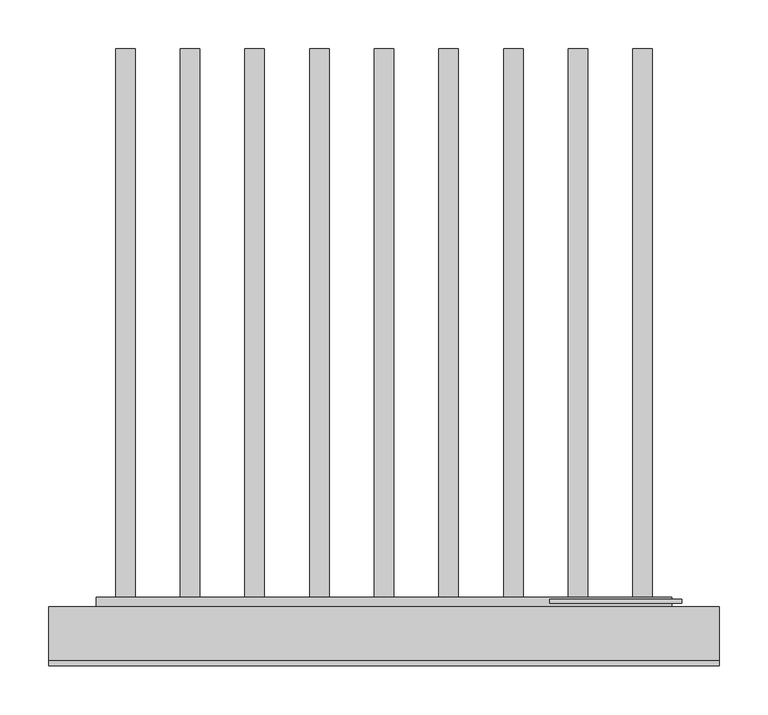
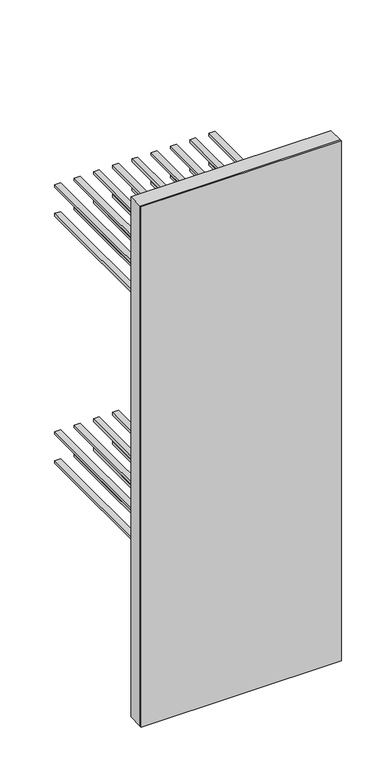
"""IFC4 building model written with IfcOpenShell, lengths in millimetres: proxy geometry, 10423090_OER_KWT6834SGS : 36683400_OER_10423090_KWT6834SGS."""

from ifc_helpers import new_model, si_unit, frame, origin, place, context, project, spatial, polyline, outline, extrude, source, transform, mapped, element, save


def specialty_equipment_9db27f2a(model_context):
    return source(origin(), model_context, "Body", "SweptSolid", [
        extrude(outline(polyline([(10.0, 67.0438353), (-10.0, 67.0438353), (-10.0, 632.0), (10.0, 632.0), (10.0, 67.0438353)])), frame((0.0, 0.0, 1583.0), z_axis=(0.0, 0.0, 1.0), x_axis=(1.0, 0.0, 0.0)), (0.0, 0.0, 1.0), 10.0),
        extrude(outline(polyline([(-56.25, 67.0438353), (-76.25, 67.0438353), (-76.25, 632.0), (-56.25, 632.0), (-56.25, 67.0438353)])), frame((0.0, 0.0, 1583.0), z_axis=(0.0, 0.0, 1.0), x_axis=(1.0, 0.0, 0.0)), (0.0, 0.0, 1.0), 10.0),
        extrude(outline(polyline([(-122.5, 67.0438353), (-142.5, 67.0438353), (-142.5, 632.0), (-122.5, 632.0), (-122.5, 67.0438353)])), frame((0.0, 0.0, 1583.0), z_axis=(0.0, 0.0, 1.0), x_axis=(1.0, 0.0, 0.0)), (0.0, 0.0, 1.0), 10.0),
        extrude(outline(polyline([(-188.75, 67.0438353), (-208.75, 67.0438353), (-208.75, 632.0), (-188.75, 632.0), (-188.75, 67.0438353)])), frame((0.0, 0.0, 1583.0), z_axis=(0.0, 0.0, 1.0), x_axis=(1.0, 0.0, 0.0)), (0.0, 0.0, 1.0), 10.0),
        extrude(outline(polyline([(-255.0, 67.0438353), (-275.0, 67.0438353), (-275.0, 632.0), (-255.0, 632.0), (-255.0, 67.0438353)])), frame((0.0, 0.0, 1583.0), z_axis=(0.0, 0.0, 1.0), x_axis=(1.0, 0.0, 0.0)), (0.0, 0.0, 1.0), 10.0),
        extrude(outline(polyline([(76.25, 67.0438353), (56.25, 67.0438353), (56.25, 632.0), (76.25, 632.0), (76.25, 67.0438353)])), frame((0.0, 0.0, 1583.0), z_axis=(0.0, 0.0, 1.0), x_axis=(1.0, 0.0, 0.0)), (0.0, 0.0, 1.0), 10.0),
        extrude(outline(polyline([(142.5, 67.0438353), (122.5, 67.0438353), (122.5, 632.0), (142.5, 632.0), (142.5, 67.0438353)])), frame((0.0, 0.0, 1583.0), z_axis=(0.0, 0.0, 1.0), x_axis=(1.0, 0.0, 0.0)), (0.0, 0.0, 1.0), 10.0),
        extrude(outline(polyline([(208.75, 67.0438353), (188.75, 67.0438353), (188.75, 632.0), (208.75, 632.0), (208.75, 67.0438353)])), frame((0.0, 0.0, 1583.0), z_axis=(0.0, 0.0, 1.0), x_axis=(1.0, 0.0, 0.0)), (0.0, 0.0, 1.0), 10.0),
        extrude(outline(polyline([(275.0, 67.0438353), (255.0, 67.0438353), (255.0, 632.0), (275.0, 632.0), (275.0, 67.0438353)])), frame((0.0, 0.0, 1583.0), z_axis=(0.0, 0.0, 1.0), x_axis=(1.0, 0.0, 0.0)), (0.0, 0.0, 1.0), 10.0),
        extrude(outline(polyline([(10.0, 67.0438353), (-10.0, 67.0438353), (-10.0, 632.0), (10.0, 632.0), (10.0, 67.0438353)])), frame((0.0, 0.0, 1478.0), z_axis=(0.0, 0.0, 1.0), x_axis=(1.0, 0.0, 0.0)), (0.0, 0.0, 1.0), 10.0),
        extrude(outline(polyline([(-56.25, 67.0438353), (-76.25, 67.0438353), (-76.25, 632.0), (-56.25, 632.0), (-56.25, 67.0438353)])), frame((0.0, 0.0, 1478.0), z_axis=(0.0, 0.0, 1.0), x_axis=(1.0, 0.0, 0.0)), (0.0, 0.0, 1.0), 10.0),
        extrude(outline(polyline([(-122.5, 67.0438353), (-142.5, 67.0438353), (-142.5, 632.0), (-122.5, 632.0), (-122.5, 67.0438353)])), frame((0.0, 0.0, 1478.0), z_axis=(0.0, 0.0, 1.0), x_axis=(1.0, 0.0, 0.0)), (0.0, 0.0, 1.0), 10.0),
        extrude(outline(polyline([(-188.75, 67.0438353), (-208.75, 67.0438353), (-208.75, 632.0), (-188.75, 632.0), (-188.75, 67.0438353)])), frame((0.0, 0.0, 1478.0), z_axis=(0.0, 0.0, 1.0), x_axis=(1.0, 0.0, 0.0)), (0.0, 0.0, 1.0), 10.0),
        extrude(outline(polyline([(-255.0, 67.0438353), (-275.0, 67.0438353), (-275.0, 632.0), (-255.0, 632.0), (-255.0, 67.0438353)])), frame((0.0, 0.0, 1478.0), z_axis=(0.0, 0.0, 1.0), x_axis=(1.0, 0.0, 0.0)), (0.0, 0.0, 1.0), 10.0),
        extrude(outline(polyline([(76.25, 67.0438353), (56.25, 67.0438353), (56.25, 632.0), (76.25, 632.0), (76.25, 67.0438353)])), frame((0.0, 0.0, 1478.0), z_axis=(0.0, 0.0, 1.0), x_axis=(1.0, 0.0, 0.0)), (0.0, 0.0, 1.0), 10.0),
        extrude(outline(polyline([(142.5, 67.0438353), (122.5, 67.0438353), (122.5, 632.0), (142.5, 632.0), (142.5, 67.0438353)])), frame((0.0, 0.0, 1478.0), z_axis=(0.0, 0.0, 1.0), x_axis=(1.0, 0.0, 0.0)), (0.0, 0.0, 1.0), 10.0),
        extrude(outline(polyline([(208.75, 67.0438353), (188.75, 67.0438353), (188.75, 632.0), (208.75, 632.0), (208.75, 67.0438353)])), frame((0.0, 0.0, 1478.0), z_axis=(0.0, 0.0, 1.0), x_axis=(1.0, 0.0, 0.0)), (0.0, 0.0, 1.0), 10.0),
        extrude(outline(polyline([(275.0, 67.0438353), (255.0, 67.0438353), (255.0, 632.0), (275.0, 632.0), (275.0, 67.0438353)])), frame((0.0, 0.0, 1478.0), z_axis=(0.0, 0.0, 1.0), x_axis=(1.0, 0.0, 0.0)), (0.0, 0.0, 1.0), 10.0),
        extrude(outline(polyline([(10.0, 67.0438353), (-10.0, 67.0438353), (-10.0, 632.0), (10.0, 632.0), (10.0, 67.0438353)])), frame((0.0, 0.0, 687.0), z_axis=(0.0, 0.0, 1.0), x_axis=(1.0, 0.0, 0.0)), (0.0, 0.0, 1.0), 10.0),
        extrude(outline(polyline([(-56.25, 67.0438353), (-76.25, 67.0438353), (-76.25, 632.0), (-56.25, 632.0), (-56.25, 67.0438353)])), frame((0.0, 0.0, 687.0), z_axis=(0.0, 0.0, 1.0), x_axis=(1.0, 0.0, 0.0)), (0.0, 0.0, 1.0), 10.0),
        extrude(outline(polyline([(-122.5, 67.0438353), (-142.5, 67.0438353), (-142.5, 632.0), (-122.5, 632.0), (-122.5, 67.0438353)])), frame((0.0, 0.0, 687.0), z_axis=(0.0, 0.0, 1.0), x_axis=(1.0, 0.0, 0.0)), (0.0, 0.0, 1.0), 10.0),
        extrude(outline(polyline([(-188.75, 67.0438353), (-208.75, 67.0438353), (-208.75, 632.0), (-188.75, 632.0), (-188.75, 67.0438353)])), frame((0.0, 0.0, 687.0), z_axis=(0.0, 0.0, 1.0), x_axis=(1.0, 0.0, 0.0)), (0.0, 0.0, 1.0), 10.0),
        extrude(outline(polyline([(-255.0, 67.0438353), (-275.0, 67.0438353), (-275.0, 632.0), (-255.0, 632.0), (-255.0, 67.0438353)])), frame((0.0, 0.0, 687.0), z_axis=(0.0, 0.0, 1.0), x_axis=(1.0, 0.0, 0.0)), (0.0, 0.0, 1.0), 10.0),
        extrude(outline(polyline([(76.25, 67.0438353), (56.25, 67.0438353), (56.25, 632.0), (76.25, 632.0), (76.25, 67.0438353)])), frame((0.0, 0.0, 687.0), z_axis=(0.0, 0.0, 1.0), x_axis=(1.0, 0.0, 0.0)), (0.0, 0.0, 1.0), 10.0),
        extrude(outline(polyline([(142.5, 67.0438353), (122.5, 67.0438353), (122.5, 632.0), (142.5, 632.0), (142.5, 67.0438353)])), frame((0.0, 0.0, 687.0), z_axis=(0.0, 0.0, 1.0), x_axis=(1.0, 0.0, 0.0)), (0.0, 0.0, 1.0), 10.0),
        extrude(outline(polyline([(208.75, 67.0438353), (188.75, 67.0438353), (188.75, 632.0), (208.75, 632.0), (208.75, 67.0438353)])), frame((0.0, 0.0, 687.0), z_axis=(0.0, 0.0, 1.0), x_axis=(1.0, 0.0, 0.0)), (0.0, 0.0, 1.0), 10.0),
        extrude(outline(polyline([(275.0, 67.0438353), (255.0, 67.0438353), (255.0, 632.0), (275.0, 632.0), (275.0, 67.0438353)])), frame((0.0, 0.0, 687.0), z_axis=(0.0, 0.0, 1.0), x_axis=(1.0, 0.0, 0.0)), (0.0, 0.0, 1.0), 10.0),
        extrude(outline(polyline([(10.0, 67.0438353), (-10.0, 67.0438353), (-10.0, 632.0), (10.0, 632.0), (10.0, 67.0438353)])), frame((0.0, 0.0, 582.0), z_axis=(0.0, 0.0, 1.0), x_axis=(1.0, 0.0, 0.0)), (0.0, 0.0, 1.0), 10.0),
        extrude(outline(polyline([(-56.25, 67.0438353), (-76.25, 67.0438353), (-76.25, 632.0), (-56.25, 632.0), (-56.25, 67.0438353)])), frame((0.0, 0.0, 582.0), z_axis=(0.0, 0.0, 1.0), x_axis=(1.0, 0.0, 0.0)), (0.0, 0.0, 1.0), 10.0),
        extrude(outline(polyline([(-122.5, 67.0438353), (-142.5, 67.0438353), (-142.5, 632.0), (-122.5, 632.0), (-122.5, 67.0438353)])), frame((0.0, 0.0, 582.0), z_axis=(0.0, 0.0, 1.0), x_axis=(1.0, 0.0, 0.0)), (0.0, 0.0, 1.0), 10.0),
        extrude(outline(polyline([(-188.75, 67.0438353), (-208.75, 67.0438353), (-208.75, 632.0), (-188.75, 632.0), (-188.75, 67.0438353)])), frame((0.0, 0.0, 582.0), z_axis=(0.0, 0.0, 1.0), x_axis=(1.0, 0.0, 0.0)), (0.0, 0.0, 1.0), 10.0),
        extrude(outline(polyline([(-255.0, 67.0438353), (-275.0, 67.0438353), (-275.0, 632.0), (-255.0, 632.0), (-255.0, 67.0438353)])), frame((0.0, 0.0, 582.0), z_axis=(0.0, 0.0, 1.0), x_axis=(1.0, 0.0, 0.0)), (0.0, 0.0, 1.0), 10.0),
        extrude(outline(polyline([(76.25, 67.0438353), (56.25, 67.0438353), (56.25, 632.0), (76.25, 632.0), (76.25, 67.0438353)])), frame((0.0, 0.0, 582.0), z_axis=(0.0, 0.0, 1.0), x_axis=(1.0, 0.0, 0.0)), (0.0, 0.0, 1.0), 10.0),
        extrude(outline(polyline([(142.5, 67.0438353), (122.5, 67.0438353), (122.5, 632.0), (142.5, 632.0), (142.5, 67.0438353)])), frame((0.0, 0.0, 582.0), z_axis=(0.0, 0.0, 1.0), x_axis=(1.0, 0.0, 0.0)), (0.0, 0.0, 1.0), 10.0),
        extrude(outline(polyline([(208.75, 67.0438353), (188.75, 67.0438353), (188.75, 632.0), (208.75, 632.0), (208.75, 67.0438353)])), frame((0.0, 0.0, 582.0), z_axis=(0.0, 0.0, 1.0), x_axis=(1.0, 0.0, 0.0)), (0.0, 0.0, 1.0), 10.0),
        extrude(outline(polyline([(275.0, 67.0438353), (255.0, 67.0438353), (255.0, 632.0), (275.0, 632.0), (275.0, 67.0438353)])), frame((0.0, 0.0, 582.0), z_axis=(0.0, 0.0, 1.0), x_axis=(1.0, 0.0, 0.0)), (0.0, 0.0, 1.0), 10.0),
        extrude(outline(polyline([(70.0, 1601.3781397), (70.0, 1575.0), (60.0, 1575.0), (60.0, 1578.0), (60.8925608, 1578.0), (60.8925608, 1597.7661331), (60.0, 1597.7661331), (60.0, 1601.3781397), (70.0, 1601.3781397)])), frame((-295.0, 0.0, 0.0), z_axis=(1.0, 0.0, 0.0), x_axis=(0.0, 1.0, 0.0)), (0.0, 0.0, 1.0), 590.0),
        extrude(outline(polyline([(70.0, 1496.3781397), (70.0, 1470.0), (60.0, 1470.0), (60.0, 1473.0), (60.8925608, 1473.0), (60.8925608, 1492.7661331), (60.0, 1492.7661331), (60.0, 1496.3781397), (70.0, 1496.3781397)])), frame((-295.0, 0.0, 0.0), z_axis=(1.0, 0.0, 0.0), x_axis=(0.0, 1.0, 0.0)), (0.0, 0.0, 1.0), 590.0),
        extrude(outline(polyline([(70.0, 705.3781397), (70.0, 679.0), (60.0, 679.0), (60.0, 682.0), (60.8925608, 682.0), (60.8925608, 701.7661331), (60.0, 701.7661331), (60.0, 705.3781397), (70.0, 705.3781397)])), frame((-295.0, 0.0, 0.0), z_axis=(1.0, 0.0, 0.0), x_axis=(0.0, 1.0, 0.0)), (0.0, 0.0, 1.0), 590.0),
        extrude(outline(polyline([(70.0, 600.3781397), (70.0, 574.0), (60.0, 574.0), (60.0, 577.0), (60.8925608, 577.0), (60.8925608, 596.7661331), (60.0, 596.7661331), (60.0, 600.3781397), (70.0, 600.3781397)])), frame((-295.0, 0.0, 0.0), z_axis=(1.0, 0.0, 0.0), x_axis=(0.0, 1.0, 0.0)), (0.0, 0.0, 1.0), 590.0),
        extrude(outline(polyline([(70.0, 496.3781397), (70.0, 470.0), (60.0, 470.0), (60.0, 473.0), (60.8925608, 473.0), (60.8925608, 492.7661331), (60.0, 492.7661331), (60.0, 496.3781397), (70.0, 496.3781397)])), frame((-295.0, 0.0, 0.0), z_axis=(1.0, 0.0, 0.0), x_axis=(0.0, 1.0, 0.0)), (0.0, 0.0, 1.0), 590.0),
        extrude(outline(polyline([(70.0, 390.3781397), (70.0, 364.0), (60.0, 364.0), (60.0, 367.0), (60.8925608, 367.0), (60.8925608, 386.7661331), (60.0, 386.7661331), (60.0, 390.3781397), (70.0, 390.3781397)])), frame((-295.0, 0.0, 0.0), z_axis=(1.0, 0.0, 0.0), x_axis=(0.0, 1.0, 0.0)), (0.0, 0.0, 1.0), 590.0),
        extrude(outline(polyline([(70.0, 147.3781397), (70.0, 121.0), (60.0, 121.0), (60.0, 124.0), (60.8925608, 124.0), (60.8925608, 143.7661331), (60.0, 143.7661331), (60.0, 147.3781397), (70.0, 147.3781397)])), frame((-295.0, 0.0, 0.0), z_axis=(1.0, 0.0, 0.0), x_axis=(0.0, 1.0, 0.0)), (0.0, 0.0, 1.0), 590.0),
        extrude(outline(polyline([(343.5, 0.0), (-343.5, 0.0), (-343.5, 5.0), (343.5, 5.0), (343.5, 0.0)])), frame((0.0, 0.0, 33.0), z_axis=(0.0, 0.0, 1.0), x_axis=(1.0, 0.0, 0.0)), (0.0, 0.0, 1.0), 1886.0),
        extrude(outline(polyline([(170.0, 68.0), (305.0, 68.0), (305.0, 64.0), (170.0, 64.0), (170.0, 68.0)])), frame((0.0, 0.0, 1846.0), z_axis=(0.0, 0.0, 1.0), x_axis=(1.0, 0.0, 0.0)), (0.0, 0.0, 1.0), 30.0),
        extrude(outline(polyline([(170.0, 68.0), (305.0, 68.0), (305.0, 64.0), (170.0, 64.0), (170.0, 68.0)])), frame((0.0, 0.0, 11.0), z_axis=(0.0, 0.0, 1.0), x_axis=(1.0, 0.0, 0.0)), (0.0, 0.0, 1.0), 30.0),
        extrude(outline(polyline([(-300.0, 60.0), (300.0, 60.0), (300.0, 5.0), (-300.0, 5.0), (-300.0, 60.0)])), frame((0.0, 0.0, 116.0), z_axis=(0.0, 0.0, 1.0), x_axis=(1.0, 0.0, 0.0)), (0.0, 0.0, 1.0), 1693.0),
        extrude(outline(polyline([(33.0, 343.5), (1919.0, 343.5), (1919.0, -343.5), (33.0, -343.5), (33.0, 343.5)]), holes=[polyline([(1809.0, 300.0), (116.0, 300.0), (116.0, -300.0), (1809.0, -300.0), (1809.0, 300.0)])]), frame((0.0, 5.0, 0.0), z_axis=(0.0, 1.0, 0.0), x_axis=(0.0, 0.0, 1.0)), (0.0, 0.0, 1.0), 55.0),
        extrude(outline(polyline([(-326.4353319, 59.0), (326.4353319, 59.0), (326.4353319, 45.0), (-326.4353319, 45.0), (-326.4353319, 59.0)])), frame((0.0, 0.0, 1295.0), z_axis=(0.0, 0.0, 1.0), x_axis=(1.0, 0.0, 0.0)), (0.0, 0.0, 1.0), 12.0),
        extrude(outline(polyline([(-326.4353319, 59.0), (326.4353319, 59.0), (326.4353319, 45.0), (-326.4353319, 45.0), (-326.4353319, 59.0)])), frame((0.0, 0.0, 795.0), z_axis=(0.0, 0.0, 1.0), x_axis=(1.0, 0.0, 0.0)), (0.0, 0.0, 1.0), 12.0),
    ])


if __name__ == "__main__":
    model = new_model("IFC4")
    model_context = context("Model", 3, world=origin())
    ifc_project = project(units=[si_unit("LENGTHUNIT", "METRE", prefix="MILLI")], contexts=[model_context])
    site = spatial("IfcSite", under=ifc_project)
    building = spatial("IfcBuilding", under=site)
    placement = place(None, origin())
    specialty_equipment_shape = specialty_equipment_9db27f2a(model_context)
    element("IfcBuildingElementProxy", 1, Name="10423090_OER_KWT6834SGS : 36683400_OER_10423090_KWT6834SGS", ObjectType="10423090_OER_KWT6834SGS : 36683400_OER_10423090_KWT6834SGS", at=placement, inside=building, context=model_context, shape_type="MappedRepresentation", body=[
        mapped(specialty_equipment_shape, transform((0.0, 0.0, 0.0), x_axis=(1.0, 0.0, 0.0), y_axis=(0.0, 1.0, 0.0), z_axis=(0.0, 0.0, 1.0))),
    ])
    save(model, "model.ifc")
